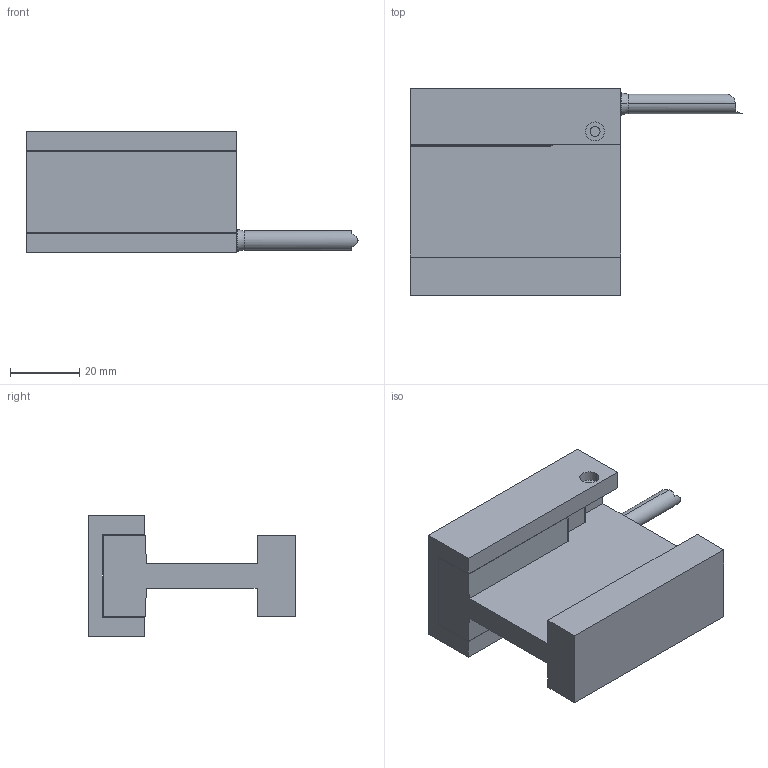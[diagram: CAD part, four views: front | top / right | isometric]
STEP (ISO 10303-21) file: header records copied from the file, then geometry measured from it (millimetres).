
FILE_DESCRIPTION (( 'STEP AP214' ), '1' );
FILE_NAME ('DX30F-C1-NH -REV.step', '2022-05-06T02:56:34', ( '' ), ( '' ), 'SwSTEP 2.0', 'SolidWorks 2020', '' );
FILE_SCHEMA (( 'AUTOMOTIVE_DESIGN' ));
Length unit declared in the file: millimetre
Products named in the file (1): DX30F-C1-NH -REV
Bounding box: 96 x 60 x 35 mm (x, y, z)
Volume: 64784.9 mm3; surface area: 22890.6 mm2
Topology: 3 solids, 4 shells, 74 faces, 181 edges, 111 vertices
Faces by surface type: plane 39, cylinder 23, cone 10, torus 2
Entity records: 2958 total; most frequent: CARTESIAN_POINT 384, DIRECTION 359, ORIENTED_EDGE 342, EDGE_CURVE 171, AXIS2_PLACEMENT_3D 122, LINE 115, VECTOR 115, VERTEX_POINT 111
